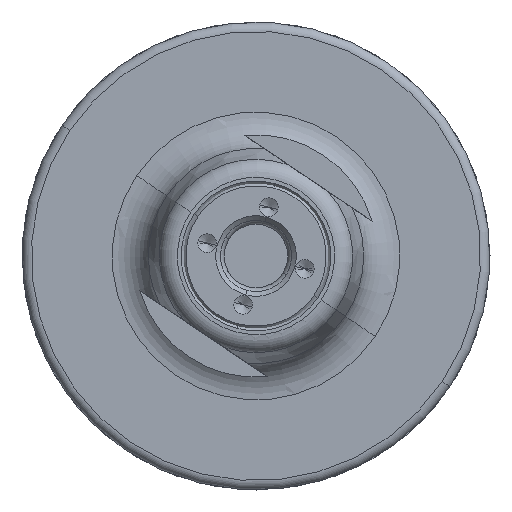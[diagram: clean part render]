
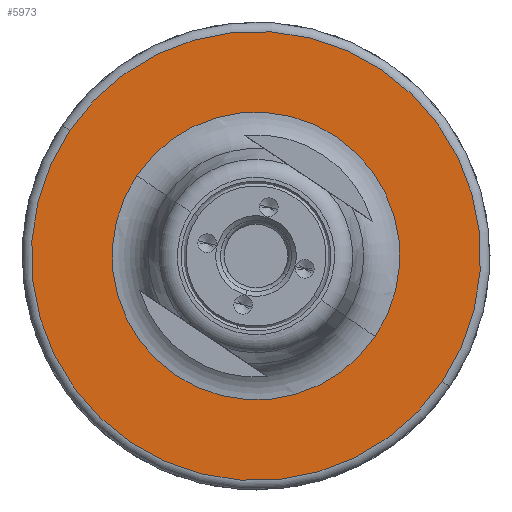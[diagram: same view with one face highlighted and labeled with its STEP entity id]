
A CAD part, left-side view. The second image highlights one B-rep face of the part: STEP entity #5973.
In plain terms, the highlighted planar face has unit normal (-1, 0, 0).
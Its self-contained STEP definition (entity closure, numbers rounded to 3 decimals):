
#999 = CARTESIAN_POINT ( 'NONE',  ( -3.5, -12., 0. ) ) ;
#2097 = CIRCLE ( 'NONE', #21493, 12. ) ;
#2239 = CIRCLE ( 'NONE', #7178, 12. ) ;
#2486 = CARTESIAN_POINT ( 'NONE',  ( -3.5, 12., 0. ) ) ;
#2667 = CARTESIAN_POINT ( 'NONE',  ( -3.5, 0., 0. ) ) ;
#3023 = VERTEX_POINT ( 'NONE', #2486 ) ;
#3360 = VERTEX_POINT ( 'NONE', #7269 ) ;
#3507 = EDGE_CURVE ( 'NONE', #18739, #3360, #9996, .T. ) ;
#3718 = AXIS2_PLACEMENT_3D ( 'NONE', #10165, #8644, #15494 ) ;
#4678 = EDGE_CURVE ( 'NONE', #3360, #18739, #5164, .T. ) ;
#5164 = CIRCLE ( 'NONE', #10064, 7.682 ) ;
#5973 = ADVANCED_FACE ( 'NONE', ( #10270, #17314 ), #15835, .T. ) ;
#6978 = CARTESIAN_POINT ( 'NONE',  ( -3.5, 0., 0. ) ) ;
#7178 = AXIS2_PLACEMENT_3D ( 'NONE', #2667, #13593, #9645 ) ;
#7269 = CARTESIAN_POINT ( 'NONE',  ( -3.5, -7.682, 0. ) ) ;
#8644 = DIRECTION ( 'NONE',  ( -1., 0., 0. ) ) ;
#8697 = DIRECTION ( 'NONE',  ( 1., 0., 0. ) ) ;
#9264 = AXIS2_PLACEMENT_3D ( 'NONE', #15977, #23074, #19701 ) ;
#9645 = DIRECTION ( 'NONE',  ( 0., -1., 0. ) ) ;
#9996 = CIRCLE ( 'NONE', #9264, 7.682 ) ;
#10064 = AXIS2_PLACEMENT_3D ( 'NONE', #12302, #8697, #12072 ) ;
#10165 = CARTESIAN_POINT ( 'NONE',  ( -3.5, 12.5, 0. ) ) ;
#10197 = EDGE_LOOP ( 'NONE', ( #12178, #10985 ) ) ;
#10270 = FACE_BOUND ( 'NONE', #10889, .T. ) ;
#10483 = DIRECTION ( 'NONE',  ( -1., 0., 0. ) ) ;
#10851 = CARTESIAN_POINT ( 'NONE',  ( -3.5, 7.682, 0. ) ) ;
#10889 = EDGE_LOOP ( 'NONE', ( #13050, #13488 ) ) ;
#10985 = ORIENTED_EDGE ( 'NONE', *, *, #17342, .T. ) ;
#12072 = DIRECTION ( 'NONE',  ( 0., -1., 0. ) ) ;
#12178 = ORIENTED_EDGE ( 'NONE', *, *, #21264, .T. ) ;
#12302 = CARTESIAN_POINT ( 'NONE',  ( -3.5, 0., 0. ) ) ;
#13050 = ORIENTED_EDGE ( 'NONE', *, *, #4678, .T. ) ;
#13488 = ORIENTED_EDGE ( 'NONE', *, *, #3507, .T. ) ;
#13593 = DIRECTION ( 'NONE',  ( -1., 0., 0. ) ) ;
#15494 = DIRECTION ( 'NONE',  ( 0., -1., 0. ) ) ;
#15835 = PLANE ( 'NONE',  #3718 ) ;
#15977 = CARTESIAN_POINT ( 'NONE',  ( -3.5, 0., 0. ) ) ;
#17314 = FACE_OUTER_BOUND ( 'NONE', #10197, .T. ) ;
#17342 = EDGE_CURVE ( 'NONE', #3023, #21617, #2239, .T. ) ;
#17517 = DIRECTION ( 'NONE',  ( 0., -1., 0. ) ) ;
#18739 = VERTEX_POINT ( 'NONE', #10851 ) ;
#19701 = DIRECTION ( 'NONE',  ( 0., -1., 0. ) ) ;
#21264 = EDGE_CURVE ( 'NONE', #21617, #3023, #2097, .T. ) ;
#21493 = AXIS2_PLACEMENT_3D ( 'NONE', #6978, #10483, #17517 ) ;
#21617 = VERTEX_POINT ( 'NONE', #999 ) ;
#23074 = DIRECTION ( 'NONE',  ( 1., 0., 0. ) ) ;
